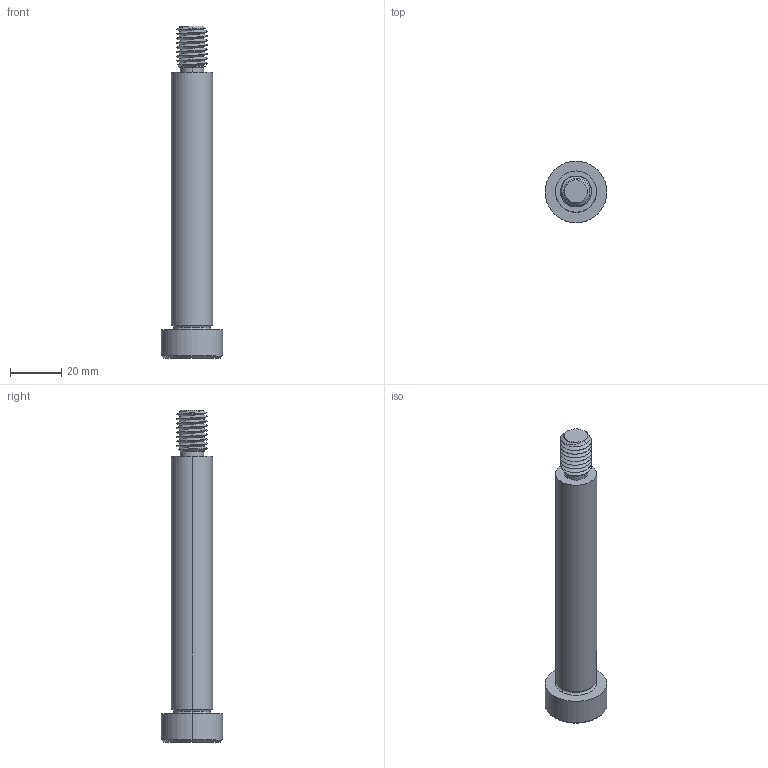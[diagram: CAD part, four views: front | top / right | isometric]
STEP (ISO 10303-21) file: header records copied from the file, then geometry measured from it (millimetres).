
FILE_DESCRIPTION (( 'STEP AP203' ), '1' );
FILE_NAME ('P0130.160-100-B2.step', '2021-11-09T22:20:14', ( '' ), ( '' ), 'SwSTEP 2.0', 'SolidWorks 2019', '' );
FILE_SCHEMA (( 'CONFIG_CONTROL_DESIGN' ));
Length unit declared in the file: millimetre
Products named in the file (1): P0130.160-100-B2
Bounding box: 24 x 24 x 129 mm (x, y, z)
Volume: 26012.1 mm3; surface area: 8069.7 mm2
Topology: 1 solids, 1 shells, 59 faces, 139 edges, 83 vertices
Faces by surface type: cylinder 22, plane 16, cone 15, torus 4, bspline 2
Entity records: 5164 total; most frequent: CARTESIAN_POINT 3839, ORIENTED_EDGE 274, DIRECTION 244, EDGE_CURVE 137, AXIS2_PLACEMENT_3D 98, VERTEX_POINT 83, EDGE_LOOP 62, ADVANCED_FACE 59
